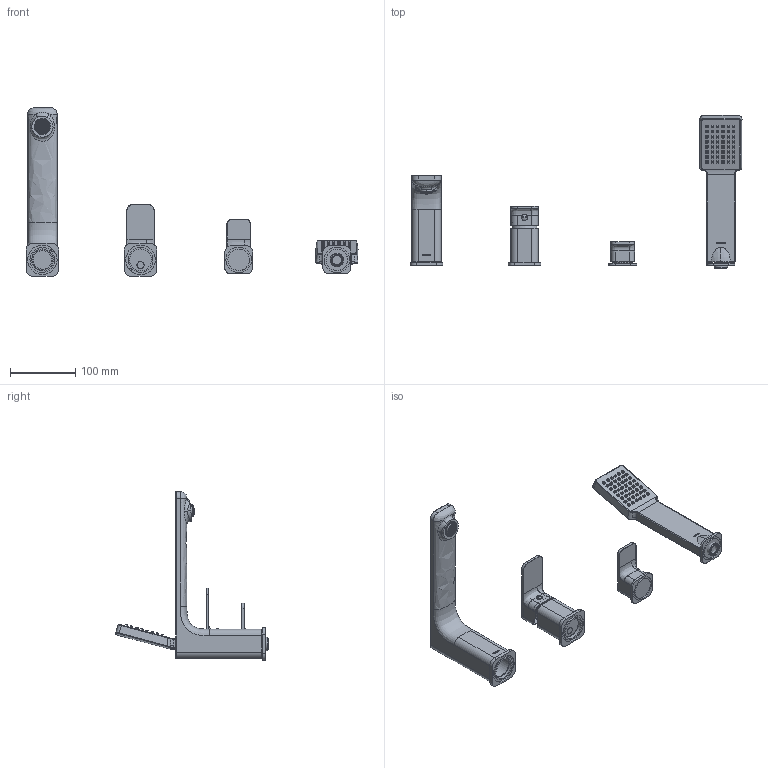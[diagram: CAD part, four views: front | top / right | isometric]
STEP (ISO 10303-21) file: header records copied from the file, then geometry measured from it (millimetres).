
FILE_DESCRIPTION(/* description */ (''),/* implementation_level */ '2;1');
FILE_NAME(/* name */ 'c:\worker\convert-fusion-r09\tmp\job-1\119\output\files\fe8b3887-0589-4408-a09e-08c3a760c5b7\0f0a465f-e7bd-4e90-bc4a-04df2a9c198e.stp',/* time_stamp */ '2019-12-13T22:13:08+00:00',/* author */ (''),/* organization */ (''),/* preprocessor_version */ 'ST-DEVELOPER v18',/* originating_system */ 'Autodesk Translation Framework v8.12.0.6',/* authorisation */ '');
FILE_SCHEMA (('AUTOMOTIVE_DESIGN { 1 0 10303 214 3 1 1 }'));
Products named in the file (3): !AP2232; LOGO NOWE v1 (1); LOGO NOWE v1 (2)
Assembly tree (2 placements, depth 2):
  !AP2232
    LOGO NOWE v1 (1)
    LOGO NOWE v1 (2)
Bounding box: 507.26 x 234.29 x 257.5 mm (x, y, z)
Volume: 516263.9 mm3; surface area: 215035.3 mm2
Topology: 33 solids, 33 shells, 3860 faces, 11663 edges, 7656 vertices
Faces by surface type: cylinder 1759, plane 1596, bspline 215, sphere 202, cone 62, torus 26
Full cylindrical faces by diameter (mm): 0.5 x128, 0.631 x2, 0.95 x1, 1.047 x1, 2 x2, 4 x2, 4.1 x4, 4.2 x1, 6.7 x2, 6.8 x1, 7 x1, 7.5 x4, 8 x6, 9 x5, 9.5 x3, 11 x3, 14.2 x1, 14.4 x1, 15 x1, 15.4 x1, 15.859 x1, 16 x1, 16.722 x1, 17 x2, 18.5 x1, 18.582 x1, 19 x1, 20.5 x1, 21 x1, 21.6 x1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
Entity records: 196221 total; most frequent: CARTESIAN_POINT 93547, ORIENTED_EDGE 23124, DIRECTION 18772, EDGE_CURVE 11562, VERTEX_POINT 7656, AXIS2_PLACEMENT_3D 6703, LINE 5366, VECTOR 5366
